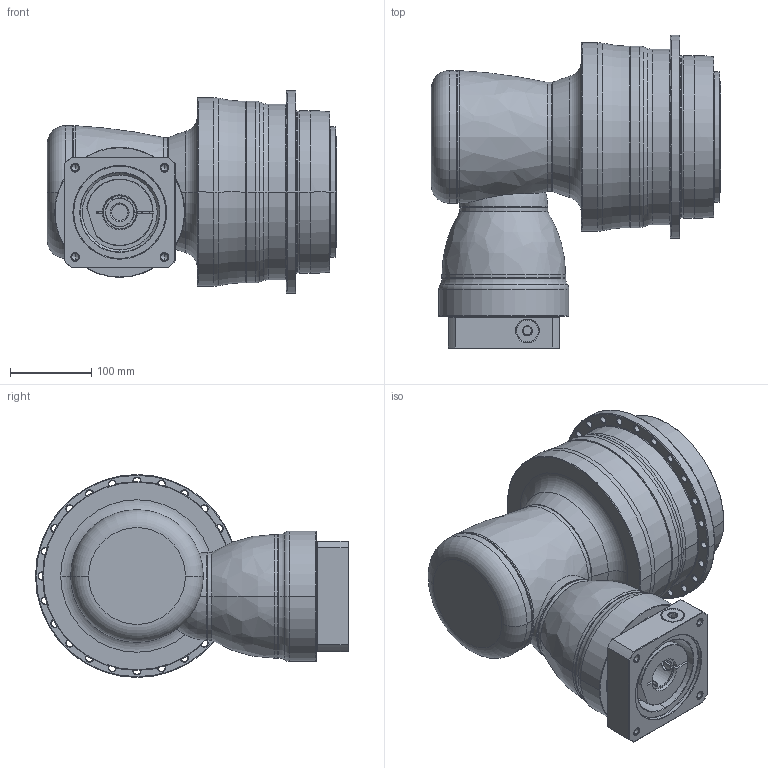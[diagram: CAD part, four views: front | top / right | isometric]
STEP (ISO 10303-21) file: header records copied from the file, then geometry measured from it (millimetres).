
FILE_DESCRIPTION((''),'2;1');
FILE_NAME('APK200_3ST_35-P0409800201_ASM','2018-07-24T',('D00080'),(''),'PRO/ENGINEER BY PARAMETRIC TECHNOLOGY CORPORATION, 2008170','PRO/ENGINEER BY PARAMETRIC TECHNOLOGY CORPORATION, 2008170','');
FILE_SCHEMA(('CONFIG_CONTROL_DESIGN'));
Length unit declared in the file: millimetre
Products named in the file (13): P1008500002; P1832600001; P0278601003; P0359601103; P1211600001; P1315500001; P1007501001; P1318501301; P0503800012; P0912503001; P0409800201; 21711422019; APK200_3ST_35-P0409800201_ASM
Assembly tree (12 placements, depth 2):
  APK200_3ST_35-P0409800201_ASM
    P1008500002
    P1832600001
    P0278601003
    P0359601103
    P1211600001
    P1315500001
    P1007501001
    P1318501301
    P0503800012
    P0912503001
    P0409800201
    21711422019
Bounding box: 355.5 x 384.75 x 249.5 mm (x, y, z)
Volume: 12509226 mm3; surface area: 951760.4 mm2
Topology: 13 solids, 38 shells, 771 faces, 1799 edges, 1085 vertices
Faces by surface type: cylinder 310, cone 226, plane 130, torus 82, bspline 21, sphere 2
Entity records: 27192 total; most frequent: CARTESIAN_POINT 8930, DIRECTION 4206, ORIENTED_EDGE 3408, AXIS2_PLACEMENT_3D 1803, EDGE_CURVE 1755, VERTEX_POINT 1085, CIRCLE 1018, EDGE_LOOP 910
